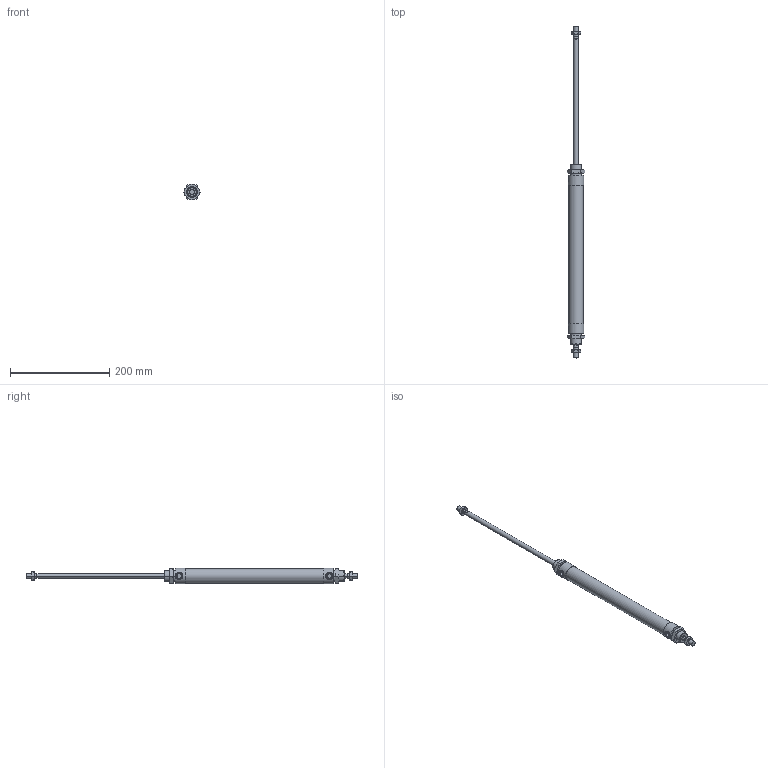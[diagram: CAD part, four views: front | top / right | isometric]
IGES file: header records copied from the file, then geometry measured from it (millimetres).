
Global section: file name: No Iges File Name specified; native system: AutoDesk Inventor R10; preprocessor: AutoDesk Inventor Iges Exporter R10; author: No Author specified; organization: No Organization specified; date: 20060105.143648; units: millimetre
Bounding box: 34.64 x 668 x 31.5 mm (x, y, z)
Volume: 262779.3 mm3; surface area: 72665.4 mm2
Topology: 6 solids, 6 shells, 185 faces, 397 edges, 232 vertices
Faces by surface type: cone 68, plane 62, cylinder 21, bspline 20, revolution 14
Full cylindrical faces by diameter (mm): 29 x1, 31.5 x2
